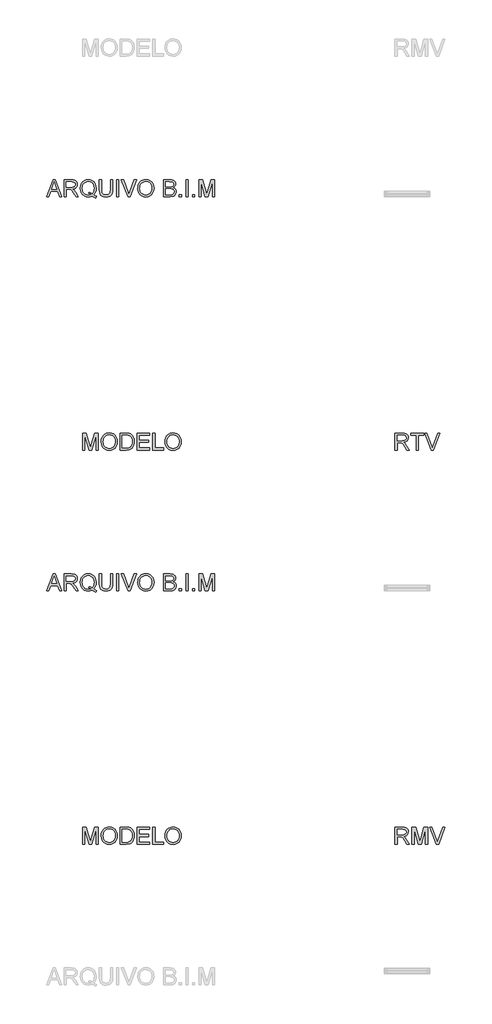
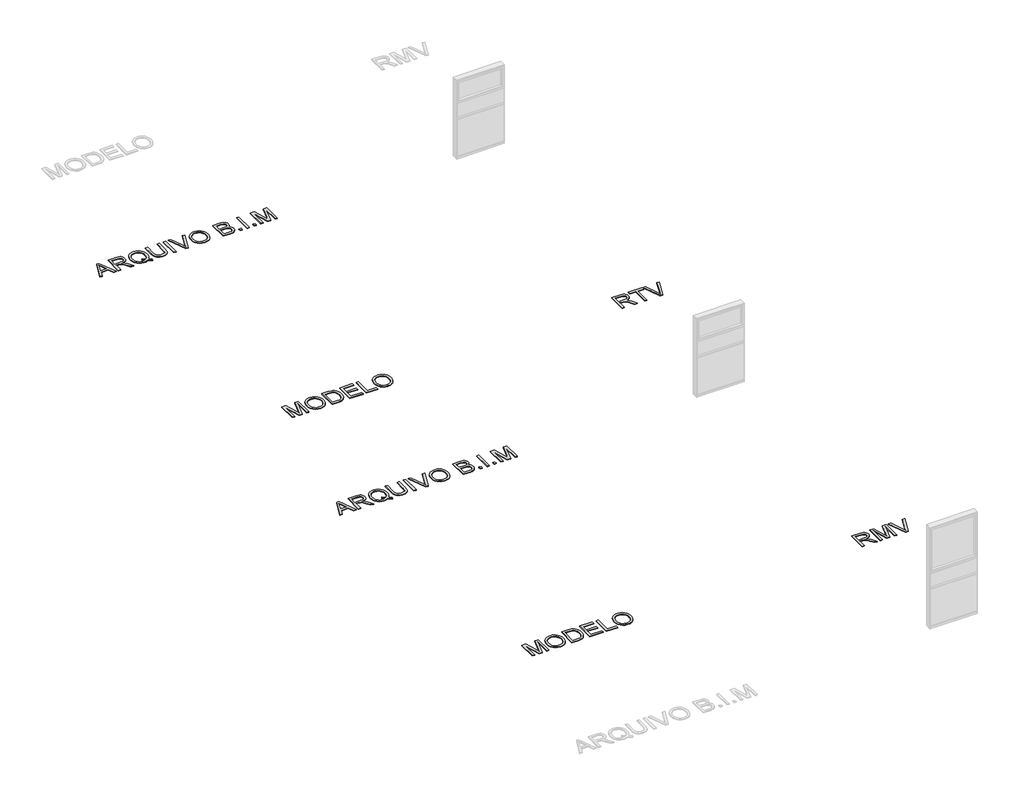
# One storey, part 5 of 15: 6 proxies.
"""IFC4 building model written with IfcOpenShell, lengths in millimetres."""

from ifc_helpers import new_model, si_unit, origin, origin_with_axes, place, context, project, spatial, polyline, outline, extrude, element, save

model = new_model("IFC4")

# Units and contexts
model_context = context("Model", 3, world=origin())
ifc_project = project(units=[si_unit("LENGTHUNIT", "METRE", prefix="MILLI")], contexts=[model_context])

# Site, building, storey
site = spatial("IfcSite", under=ifc_project)
building = spatial("IfcBuilding", under=site)
storey = spatial("IfcBuildingStorey", under=building, Name="Marelli - Linha REASONS - Planta Baixa", Elevation=0.0)

# Proxies
placement = place(None, origin())
element("IfcBuildingElementProxy", 1, Name="300mm Arial", ObjectType="300mm Arial", at=placement, inside=storey, context=model_context, shape_type="SweptSolid", body=[
    extrude(outline(polyline([(9390.580402, -126280.5663201), (9510.8778144, -125979.1973896), (9542.9571244, -125979.1973896), (9663.2545368, -126280.5663201), (9623.449705, -126280.5663201), (9588.9423738, -126186.3885293), (9464.8189886, -126186.3885293), (9430.3852339, -126280.5663201), (9390.580402, -126280.5663201)]), holes=[polyline([(9478.6513517, -126148.717413), (9575.1835872, -126148.717413), (9548.0338959, -126074.6259792), (9526.9174694, -126016.8685059), (9508.1554877, -126068.1512561), (9478.6513517, -126148.717413)])]), origin_with_axes(), (0.0, 0.0, 1.0), 10.0),
    extrude(outline(polyline([(9703.5008271, -126280.5663201), (9703.5008271, -125979.1973896), (9833.3631714, -125979.1973896), (9868.2659757, -125981.2299376), (9893.6590304, -125987.3275817), (9912.2186771, -125998.5847708), (9926.6212572, -126016.0959537), (9935.8642923, -126037.8101885), (9938.945304, -126061.6765329), (9933.8409413, -126091.3646099), (9918.5278533, -126115.9759154), (9906.9280741, -126126.0052983), (9892.5461874, -126134.0205273), (9855.4360911, -126144.0085235), (9876.8468232, -126160.1217548), (9907.3810288, -126198.8965171), (9957.6337094, -126280.5663201), (9913.855752, -126280.5663201), (9874.6395313, -126218.0999573), (9846.3126176, -126176.750021), (9826.4102017, -126157.2154871), (9808.4943485, -126150.0417882), (9786.642158, -126148.717413), (9741.1719434, -126148.717413), (9741.1719434, -126280.5663201), (9703.5008271, -126280.5663201)]), holes=[polyline([(9741.1719434, -126111.0462967), (9825.4904967, -126111.0462967), (9849.706329, -126109.7127245), (9868.4959019, -126105.7120078), (9882.6409647, -126098.7774322), (9892.9232664, -126088.6422832), (9899.1864574, -126076.3826157), (9901.2741877, -126063.0744845), (9897.2918651, -126044.6987789), (9885.3448973, -126029.8915286), (9864.7894908, -126020.1242616), (9834.9818522, -126016.8685059), (9741.1719434, -126016.8685059), (9741.1719434, -126111.0462967)])]), origin_with_axes(), (0.0, 0.0, 1.0), 10.0),
    extrude(outline(polyline([(10231.2643374, -126244.4403081), (10255.5997314, -126263.036743), (10277.9853508, -126275.8574305), (10267.8318077, -126303.4485802), (10236.7641732, -126289.0460001), (10205.8069033, -126268.205485), (10170.9500843, -126281.0077785), (10132.5983863, -126285.2752096), (10094.0627473, -126280.3547879), (10059.2427164, -126265.5935229), (10030.0788713, -126241.9203165), (10008.5117893, -126210.2640708), (9995.185264, -126172.3630282), (9990.7430889, -126129.9554312), (9995.176067, -126087.511046), (10008.4750011, -126049.0581805), (10029.9593096, -126016.9512794), (10058.9484108, -125993.5447874), (10093.639683, -125979.2525719), (10132.2305043, -125974.4885001), (10171.1248282, -125979.3629365), (10205.9908443, -125993.9862458), (10234.9339603, -126017.3835407), (10256.0595839, -126048.5799339), (10268.9722419, -126085.9199564), (10273.2764612, -126127.7481393), (10270.6644991, -126162.5313819), (10262.8286126, -126193.5990164), (10249.7136194, -126220.9142546), (10231.2643374, -126244.4403081)]), holes=[polyline([(10142.9726585, -126194.3347804), (10174.6472983, -126206.3093393), (10200.215097, -126222.9559996), (10215.6983305, -126205.4816049), (10226.7577829, -126184.1076609), (10233.3934544, -126158.8341679), (10235.6053449, -126129.6611256), (10232.478348, -126096.5057608), (10223.0973571, -126067.8201623), (10207.6922985, -126044.3308969), (10186.4930986, -126026.7645316), (10160.934497, -126015.8108452), (10132.4512335, -126012.1596164), (10110.966925, -126014.0059242), (10091.3956028, -126019.5448474), (10073.7372671, -126028.7763863), (10057.9919177, -126041.7005406), (10045.0516685, -126058.2897193), (10035.8086334, -126078.5163313), (10030.2628123, -126102.3803764), (10028.4142052, -126129.8818548), (10030.2421189, -126156.6659634), (10035.7258599, -126180.1437324), (10044.8654282, -126200.3151621), (10057.6608239, -126217.1802523), (10073.2981079, -126230.4906827), (10090.9633415, -126239.9981331), (10110.6565245, -126245.7026032), (10132.3776571, -126247.6040933), (10153.2917485, -126245.6727128), (10172.918253, -126239.8785714), (10153.6228423, -126229.853787), (10133.2605739, -126223.1767288), (10142.9726585, -126194.3347804)])]), origin_with_axes(), (0.0, 0.0, 1.0), 10.0),
    extrude(outline(polyline([(10527.5564963, -125979.1973896), (10565.2276126, -125979.1973896), (10565.2276126, -126153.0584205), (10562.6708327, -126193.7737604), (10555.0004931, -126225.1265034), (10540.6714894, -126249.3147446), (10518.1387172, -126268.5365788), (10487.3469942, -126281.0905519), (10448.2411381, -126285.2752096), (10409.9906077, -126281.6331779), (10379.4104168, -126270.7070826), (10356.4913685, -126252.8740029), (10341.2242657, -126228.5110178), (10332.6434182, -126195.8338995), (10329.7831357, -126153.0584205), (10329.7831357, -125979.1973896), (10367.454252, -125979.1973896), (10367.454252, -126151.7340454), (10369.3120561, -126185.588386), (10374.8854683, -126209.1604248), (10384.9838291, -126225.4851883), (10400.4164788, -126237.597703), (10420.5396239, -126245.1024957), (10444.709471, -126247.6040933), (10483.0243808, -126242.6560805), (10497.3671801, -126236.4710644), (10508.500209, -126227.812042), (10516.8373347, -126215.6351479), (10522.7924245, -126198.8965171), (10527.5564963, -126151.7340454), (10527.5564963, -125979.1973896)])), origin_with_axes(), (0.0, 0.0, 1.0), 10.0),
    extrude(outline(polyline([(10635.8609557, -126280.5663201), (10635.8609557, -125979.1973896), (10673.532072, -125979.1973896), (10673.532072, -126280.5663201), (10635.8609557, -126280.5663201)])), origin_with_axes(), (0.0, 0.0, 1.0), 10.0),
    extrude(outline(polyline([(10837.9017474, -126280.5663201), (10717.972217, -125979.1973896), (10758.2920837, -125979.1973896), (10838.563935, -126196.3213432), (10854.8243192, -126245.2496485), (10870.8639742, -126196.3213432), (10951.3565547, -125979.1973896), (10991.6764214, -125979.1973896), (10876.8236625, -126280.5663201), (10837.9017474, -126280.5663201)])), origin_with_axes(), (0.0, 0.0, 1.0), 10.0),
    extrude(outline(polyline([(11012.5721187, -126133.8549804), (11015.0829134, -126098.5061192), (11022.6152972, -126067.213157), (11035.1692703, -126039.9760937), (11052.7448326, -126016.7949295), (11074.288922, -125998.2858666), (11098.7484761, -125985.0651074), (11126.1234951, -125977.1326519), (11156.4139789, -125974.4885001), (11195.9428992, -125979.454907), (11231.3883295, -125994.3541278), (11260.8188891, -126018.1376988), (11282.3031976, -126049.7571563), (11295.4365848, -126087.68579), (11299.8143806, -126130.3968896), (11295.2066586, -126173.6782064), (11281.3834926, -126212.140269), (11259.1082378, -126243.8149088), (11229.1442493, -126266.733957), (11194.0023217, -126280.6398965), (11156.1932497, -126285.2752096), (11116.057324, -126280.1524528), (11080.4095587, -126264.7841825), (11051.0525754, -126240.5591531), (11029.7889961, -126208.8661192), (11016.8763381, -126172.3998164), (11012.5721187, -126133.8549804)]), holes=[polyline([(11050.2432351, -126134.2228624), (11052.126331, -126159.1974513), (11057.7756189, -126181.3669401), (11067.1910987, -126200.7313286), (11080.3727705, -126217.2906169), (11096.3963306, -126230.5527628), (11114.3374757, -126240.0257242), (11134.1962056, -126245.709501), (11155.9725205, -126247.6040933), (11178.1213158, -126245.6911069), (11198.2145706, -126239.9521478), (11216.2522846, -126230.3872159), (11232.2344581, -126216.9963113), (11245.3195608, -126200.0875351), (11254.6660627, -126179.9689885), (11260.2739639, -126156.6406715), (11262.1432643, -126130.102584), (11258.9426909, -126096.7540812), (11249.3409708, -126067.9305269), (11233.5864244, -126044.358488), (11211.9273719, -126026.7645316), (11185.7985532, -126015.8108452), (11156.6347081, -126012.1596164), (11135.6148506, -126013.9185522), (11116.1125063, -126019.1953595), (11098.1276752, -126027.9900385), (11081.6603574, -126040.302589), (11067.9153664, -126056.7262208), (11058.0975156, -126077.8541437), (11052.2068052, -126103.6863575), (11050.2432351, -126134.2228624)])]), origin_with_axes(), (0.0, 0.0, 1.0), 10.0),
    extrude(outline(polyline([(11469.334404, -126280.5663201), (11469.334404, -125979.1973896), (11584.3343156, -125979.1973896), (11615.9629702, -125981.4138786), (11640.6570491, -125988.0633457), (11659.5845778, -125999.3113377), (11673.9135815, -126015.3234015), (11682.9358874, -126034.1589597), (11685.9433227, -126053.8774346), (11683.414134, -126072.0232141), (11675.8265679, -126089.0837416), (11663.125442, -126104.0105535), (11645.2555741, -126115.7551862), (11666.6019268, -126126.9020107), (11682.3748674, -126143.8613707), (11692.1145432, -126165.5112261), (11695.3611018, -126190.7295368), (11693.1446128, -126211.7447958), (11686.4951457, -126231.2333445), (11676.5715289, -126247.8064284), (11664.5325906, -126260.0752929), (11649.7897196, -126268.9596431), (11631.7543048, -126275.3791839), (11583.4513989, -126280.5663201), (11469.334404, -126280.5663201)]), holes=[polyline([(11507.0055203, -126101.6285176), (11575.7994534, -126101.6285176), (11615.9721672, -126098.3911561), (11630.0344565, -126092.8085468), (11640.1420143, -126084.4484284), (11646.2396584, -126073.4395597), (11648.2722064, -126059.9106994), (11646.3776141, -126046.7773121), (11640.6938373, -126035.3361821), (11631.4783933, -126026.4058467), (11618.9887996, -126020.8048433), (11570.575529, -126016.8685059), (11507.0055203, -126016.8685059), (11507.0055203, -126101.6285176)]), polyline([(11507.0055203, -126242.8952038), (11584.2607393, -126242.8952038), (11612.2197709, -126241.4236758), (11635.8745832, -126233.2199073), (11651.5463562, -126216.4812765), (11656.1540782, -126204.6538704), (11657.6899855, -126191.0974188), (11655.8873637, -126175.3520694), (11650.4794984, -126161.814012), (11641.0341282, -126151.2282076), (11627.1189917, -126144.3396173), (11607.4097138, -126140.5596298), (11580.5819193, -126139.2996339), (11507.0055203, -126139.2996339), (11507.0055203, -126242.8952038)])]), origin_with_axes(), (0.0, 0.0, 1.0), 10.0),
    extrude(outline(polyline([(11751.8677763, -126280.5663201), (11751.8677763, -126242.8952038), (11789.5388926, -126242.8952038), (11789.5388926, -126280.5663201), (11751.8677763, -126280.5663201)])), origin_with_axes(), (0.0, 0.0, 1.0), 10.0),
    extrude(outline(polyline([(11869.5900147, -126280.5663201), (11869.5900147, -125979.1973896), (11907.261131, -125979.1973896), (11907.261131, -126280.5663201), (11869.5900147, -126280.5663201)])), origin_with_axes(), (0.0, 0.0, 1.0), 10.0),
    extrude(outline(polyline([(11987.3122532, -126280.5663201), (11987.3122532, -126242.8952038), (12024.9833695, -126242.8952038), (12024.9833695, -126280.5663201), (11987.3122532, -126280.5663201)])), origin_with_axes(), (0.0, 0.0, 1.0), 10.0),
    extrude(outline(polyline([(12100.3256021, -126280.5663201), (12100.3256021, -125979.1973896), (12165.1464096, -125979.1973896), (12226.803432, -126191.6124536), (12239.2378435, -126235.9790223), (12252.7023245, -126187.9336337), (12313.3292773, -125979.1973896), (12378.1500848, -125979.1973896), (12378.1500848, -126280.5663201), (12340.4789685, -126280.5663201), (12340.4789685, -126016.8685059), (12264.7688539, -126280.5663201), (12213.706833, -126280.5663201), (12137.9967184, -126016.8685059), (12137.9967184, -126280.5663201), (12100.3256021, -126280.5663201)])), origin_with_axes(), (0.0, 0.0, 1.0), 10.0),
])
element("IfcBuildingElementProxy", 2, Name="300mm Arial", ObjectType="300mm Arial", at=placement, inside=storey, context=model_context, shape_type="SweptSolid", body=[
    extrude(outline(polyline([(10033.1230948, -123780.5663201), (10033.1230948, -123479.1973896), (10097.9439023, -123479.1973896), (10159.6009247, -123691.6124536), (10172.0353362, -123735.9790223), (10185.4998172, -123687.9336337), (10246.12677, -123479.1973896), (10310.9475775, -123479.1973896), (10310.9475775, -123780.5663201), (10273.2764612, -123780.5663201), (10273.2764612, -123516.8685059), (10197.5663466, -123780.5663201), (10146.5043257, -123780.5663201), (10070.7942111, -123516.8685059), (10070.7942111, -123780.5663201), (10033.1230948, -123780.5663201)])), origin_with_axes(), (0.0, 0.0, 1.0), 10.0),
    extrude(outline(polyline([(10362.7453625, -123633.8549804), (10365.2561571, -123598.5061192), (10372.7885409, -123567.213157), (10385.342514, -123539.9760937), (10402.9180763, -123516.7949295), (10424.4621657, -123498.2858666), (10448.9217198, -123485.0651074), (10476.2967388, -123477.1326519), (10506.5872226, -123474.4885001), (10546.116143, -123479.454907), (10581.5615732, -123494.3541278), (10610.9921328, -123518.1376988), (10632.4764413, -123549.7571563), (10645.6098286, -123587.68579), (10649.9876243, -123630.3968896), (10645.3799023, -123673.6782064), (10631.5567363, -123712.140269), (10609.2814815, -123743.8149088), (10579.317493, -123766.733957), (10544.1755654, -123780.6398965), (10506.3664934, -123785.2752096), (10466.2305677, -123780.1524528), (10430.5828024, -123764.7841825), (10401.2258192, -123740.5591531), (10379.9622398, -123708.8661192), (10367.0495818, -123672.3998164), (10362.7453625, -123633.8549804)]), holes=[polyline([(10400.4164788, -123634.2228624), (10402.2995747, -123659.1974513), (10407.9488626, -123681.3669401), (10417.3643424, -123700.7313286), (10430.5460142, -123717.2906169), (10446.5695743, -123730.5527628), (10464.5107194, -123740.0257242), (10484.3694493, -123745.709501), (10506.1457642, -123747.6040933), (10528.2945596, -123745.6911069), (10548.3878143, -123739.9521478), (10566.4255284, -123730.3872159), (10582.4077018, -123716.9963113), (10595.4928045, -123700.0875351), (10604.8393064, -123679.9689885), (10610.4472076, -123656.6406715), (10612.316508, -123630.102584), (10609.1159346, -123596.7540812), (10599.5142146, -123567.9305269), (10583.7596681, -123544.358488), (10562.1006157, -123526.7645316), (10535.9717969, -123515.8108452), (10506.8079518, -123512.1596164), (10485.7880943, -123513.9185522), (10466.28575, -123519.1953595), (10448.300919, -123527.9900385), (10431.8336012, -123540.302589), (10418.0886101, -123556.7262208), (10408.2707594, -123577.8541437), (10402.3800489, -123603.6863575), (10400.4164788, -123634.2228624)])]), origin_with_axes(), (0.0, 0.0, 1.0), 10.0),
    extrude(outline(polyline([(10701.7854092, -123780.5663201), (10701.7854092, -123479.1973896), (10805.7488611, -123479.1973896), (10859.5332088, -123483.5383972), (10883.555903, -123491.9077126), (10903.826201, -123505.0962821), (10924.666716, -123528.0521186), (10939.5107545, -123556.5997614), (10948.3951047, -123590.1873876), (10951.3565547, -123628.2631741), (10949.3515979, -123660.6091985), (10943.3367273, -123689.0740679), (10934.1764656, -123713.3082943), (10922.7353355, -123732.9623899), (10909.5651601, -123748.477813), (10895.2177623, -123760.2960221), (10878.745846, -123769.0608107), (10859.202115, -123775.4159721), (10810.7520562, -123780.5663201), (10701.7854092, -123780.5663201)]), holes=[polyline([(10739.4565255, -123742.8952038), (10806.1167431, -123742.8952038), (10833.6894986, -123741.5340404), (10854.60359, -123737.4505502), (10870.3857276, -123730.8838566), (10882.5626217, -123722.0730828), (10895.6500236, -123705.7667134), (10905.48167, -123684.6594839), (10911.6344963, -123658.6594239), (10913.6854384, -123627.6745629), (10909.6663276, -123586.6189322), (10897.6089953, -123556.3054558), (10879.7943096, -123535.4833349), (10858.5031392, -123522.9017706), (10836.8348897, -123518.3768221), (10805.0866735, -123516.8685059), (10739.4565255, -123516.8685059), (10739.4565255, -123742.8952038)])]), origin_with_axes(), (0.0, 0.0, 1.0), 10.0),
    extrude(outline(polyline([(11003.1543397, -123780.5663201), (11003.1543397, -123479.1973896), (11219.7632584, -123479.1973896), (11219.7632584, -123516.8685059), (11040.825456, -123516.8685059), (11040.825456, -123606.3374072), (11210.3454794, -123606.3374072), (11210.3454794, -123644.0085235), (11040.825456, -123644.0085235), (11040.825456, -123742.8952038), (11224.472148, -123742.8952038), (11224.472148, -123780.5663201), (11003.1543397, -123780.5663201)])), origin_with_axes(), (0.0, 0.0, 1.0), 10.0),
    extrude(outline(polyline([(11280.9788224, -123780.5663201), (11280.9788224, -123479.1973896), (11318.6499387, -123479.1973896), (11318.6499387, -123742.8952038), (11469.334404, -123742.8952038), (11469.334404, -123780.5663201), (11280.9788224, -123780.5663201)])), origin_with_axes(), (0.0, 0.0, 1.0), 10.0),
    extrude(outline(polyline([(11497.5877412, -123633.8549804), (11500.0985358, -123598.5061192), (11507.6309197, -123567.213157), (11520.1848927, -123539.9760937), (11537.7604551, -123516.7949295), (11559.3045444, -123498.2858666), (11583.7640986, -123485.0651074), (11611.1391175, -123477.1326519), (11641.4296013, -123474.4885001), (11680.9585217, -123479.454907), (11716.4039519, -123494.3541278), (11745.8345115, -123518.1376988), (11767.3188201, -123549.7571563), (11780.4522073, -123587.68579), (11784.830003, -123630.3968896), (11780.222281, -123673.6782064), (11766.3991151, -123712.140269), (11744.1238603, -123743.8149088), (11714.1598717, -123766.733957), (11679.0179442, -123780.6398965), (11641.2088721, -123785.2752096), (11601.0729464, -123780.1524528), (11565.4251811, -123764.7841825), (11536.0681979, -123740.5591531), (11514.8046186, -123708.8661192), (11501.8919605, -123672.3998164), (11497.5877412, -123633.8549804)]), holes=[polyline([(11535.2588575, -123634.2228624), (11537.1419535, -123659.1974513), (11542.7912413, -123681.3669401), (11552.2067212, -123700.7313286), (11565.3883929, -123717.2906169), (11581.4119531, -123730.5527628), (11599.3530981, -123740.0257242), (11619.2118281, -123745.709501), (11640.9881429, -123747.6040933), (11663.1369383, -123745.6911069), (11683.230193, -123739.9521478), (11701.2679071, -123730.3872159), (11717.2500805, -123716.9963113), (11730.3351832, -123700.0875351), (11739.6816852, -123679.9689885), (11745.2895863, -123656.6406715), (11747.1588867, -123630.102584), (11743.9583134, -123596.7540812), (11734.3565933, -123567.9305269), (11718.6020468, -123544.358488), (11696.9429944, -123526.7645316), (11670.8141757, -123515.8108452), (11641.6503305, -123512.1596164), (11620.630473, -123513.9185522), (11601.1281287, -123519.1953595), (11583.1432977, -123527.9900385), (11566.6759799, -123540.302589), (11552.9309888, -123556.7262208), (11543.1131381, -123577.8541437), (11537.2224276, -123603.6863575), (11535.2588575, -123634.2228624)])]), origin_with_axes(), (0.0, 0.0, 1.0), 10.0),
])
element("IfcBuildingElementProxy", 3, Name="300mm Arial", ObjectType="300mm Arial", at=placement, inside=storey, context=model_context, shape_type="SweptSolid", body=[
    extrude(outline(polyline([(9390.580402, -119280.5663201), (9510.8778144, -118979.1973896), (9542.9571244, -118979.1973896), (9663.2545368, -119280.5663201), (9623.449705, -119280.5663201), (9588.9423738, -119186.3885293), (9464.8189886, -119186.3885293), (9430.3852339, -119280.5663201), (9390.580402, -119280.5663201)]), holes=[polyline([(9478.6513517, -119148.717413), (9575.1835872, -119148.717413), (9548.0338959, -119074.6259792), (9526.9174694, -119016.8685059), (9508.1554877, -119068.1512561), (9478.6513517, -119148.717413)])]), origin_with_axes(), (0.0, 0.0, 1.0), 10.0),
    extrude(outline(polyline([(9703.5008271, -119280.5663201), (9703.5008271, -118979.1973896), (9833.3631714, -118979.1973896), (9868.2659757, -118981.2299376), (9893.6590304, -118987.3275817), (9912.2186771, -118998.5847708), (9926.6212572, -119016.0959537), (9935.8642923, -119037.8101885), (9938.945304, -119061.6765329), (9933.8409413, -119091.3646099), (9918.5278533, -119115.9759154), (9906.9280741, -119126.0052983), (9892.5461874, -119134.0205273), (9855.4360911, -119144.0085235), (9876.8468232, -119160.1217548), (9907.3810288, -119198.8965171), (9957.6337094, -119280.5663201), (9913.855752, -119280.5663201), (9874.6395313, -119218.0999573), (9846.3126176, -119176.750021), (9826.4102017, -119157.2154871), (9808.4943485, -119150.0417882), (9786.642158, -119148.717413), (9741.1719434, -119148.717413), (9741.1719434, -119280.5663201), (9703.5008271, -119280.5663201)]), holes=[polyline([(9741.1719434, -119111.0462967), (9825.4904967, -119111.0462967), (9849.706329, -119109.7127245), (9868.4959019, -119105.7120078), (9882.6409647, -119098.7774322), (9892.9232664, -119088.6422832), (9899.1864574, -119076.3826157), (9901.2741877, -119063.0744845), (9897.2918651, -119044.6987789), (9885.3448973, -119029.8915286), (9864.7894908, -119020.1242616), (9834.9818522, -119016.8685059), (9741.1719434, -119016.8685059), (9741.1719434, -119111.0462967)])]), origin_with_axes(), (0.0, 0.0, 1.0), 10.0),
    extrude(outline(polyline([(10231.2643374, -119244.4403081), (10255.5997314, -119263.036743), (10277.9853508, -119275.8574305), (10267.8318077, -119303.4485802), (10236.7641732, -119289.0460001), (10205.8069033, -119268.205485), (10170.9500843, -119281.0077785), (10132.5983863, -119285.2752096), (10094.0627473, -119280.3547879), (10059.2427164, -119265.5935229), (10030.0788713, -119241.9203165), (10008.5117893, -119210.2640708), (9995.185264, -119172.3630282), (9990.7430889, -119129.9554312), (9995.176067, -119087.511046), (10008.4750011, -119049.0581805), (10029.9593096, -119016.9512794), (10058.9484108, -118993.5447874), (10093.639683, -118979.2525719), (10132.2305043, -118974.4885001), (10171.1248282, -118979.3629365), (10205.9908443, -118993.9862458), (10234.9339603, -119017.3835407), (10256.0595839, -119048.5799339), (10268.9722419, -119085.9199564), (10273.2764612, -119127.7481393), (10270.6644991, -119162.5313819), (10262.8286126, -119193.5990164), (10249.7136194, -119220.9142546), (10231.2643374, -119244.4403081)]), holes=[polyline([(10142.9726585, -119194.3347804), (10174.6472983, -119206.3093393), (10200.215097, -119222.9559996), (10215.6983305, -119205.4816049), (10226.7577829, -119184.1076609), (10233.3934544, -119158.8341679), (10235.6053449, -119129.6611256), (10232.478348, -119096.5057608), (10223.0973571, -119067.8201623), (10207.6922985, -119044.3308969), (10186.4930986, -119026.7645316), (10160.934497, -119015.8108452), (10132.4512335, -119012.1596164), (10110.966925, -119014.0059242), (10091.3956028, -119019.5448474), (10073.7372671, -119028.7763863), (10057.9919177, -119041.7005406), (10045.0516685, -119058.2897193), (10035.8086334, -119078.5163313), (10030.2628123, -119102.3803764), (10028.4142052, -119129.8818548), (10030.2421189, -119156.6659634), (10035.7258599, -119180.1437324), (10044.8654282, -119200.3151621), (10057.6608239, -119217.1802523), (10073.2981079, -119230.4906827), (10090.9633415, -119239.9981331), (10110.6565245, -119245.7026032), (10132.3776571, -119247.6040933), (10153.2917485, -119245.6727128), (10172.918253, -119239.8785714), (10153.6228423, -119229.853787), (10133.2605739, -119223.1767288), (10142.9726585, -119194.3347804)])]), origin_with_axes(), (0.0, 0.0, 1.0), 10.0),
    extrude(outline(polyline([(10527.5564963, -118979.1973896), (10565.2276126, -118979.1973896), (10565.2276126, -119153.0584205), (10562.6708327, -119193.7737604), (10555.0004931, -119225.1265034), (10540.6714894, -119249.3147446), (10518.1387172, -119268.5365788), (10487.3469942, -119281.0905519), (10448.2411381, -119285.2752096), (10409.9906077, -119281.6331779), (10379.4104168, -119270.7070826), (10356.4913685, -119252.8740029), (10341.2242657, -119228.5110178), (10332.6434182, -119195.8338995), (10329.7831357, -119153.0584205), (10329.7831357, -118979.1973896), (10367.454252, -118979.1973896), (10367.454252, -119151.7340454), (10369.3120561, -119185.588386), (10374.8854683, -119209.1604248), (10384.9838291, -119225.4851883), (10400.4164788, -119237.597703), (10420.5396239, -119245.1024957), (10444.709471, -119247.6040933), (10483.0243808, -119242.6560805), (10497.3671801, -119236.4710644), (10508.500209, -119227.812042), (10516.8373347, -119215.6351479), (10522.7924245, -119198.8965171), (10527.5564963, -119151.7340454), (10527.5564963, -118979.1973896)])), origin_with_axes(), (0.0, 0.0, 1.0), 10.0),
    extrude(outline(polyline([(10635.8609557, -119280.5663201), (10635.8609557, -118979.1973896), (10673.532072, -118979.1973896), (10673.532072, -119280.5663201), (10635.8609557, -119280.5663201)])), origin_with_axes(), (0.0, 0.0, 1.0), 10.0),
    extrude(outline(polyline([(10837.9017474, -119280.5663201), (10717.972217, -118979.1973896), (10758.2920837, -118979.1973896), (10838.563935, -119196.3213432), (10854.8243192, -119245.2496485), (10870.8639742, -119196.3213432), (10951.3565547, -118979.1973896), (10991.6764214, -118979.1973896), (10876.8236625, -119280.5663201), (10837.9017474, -119280.5663201)])), origin_with_axes(), (0.0, 0.0, 1.0), 10.0),
    extrude(outline(polyline([(11012.5721187, -119133.8549804), (11015.0829134, -119098.5061192), (11022.6152972, -119067.213157), (11035.1692703, -119039.9760937), (11052.7448326, -119016.7949295), (11074.288922, -118998.2858666), (11098.7484761, -118985.0651074), (11126.1234951, -118977.1326519), (11156.4139789, -118974.4885001), (11195.9428992, -118979.454907), (11231.3883295, -118994.3541278), (11260.8188891, -119018.1376988), (11282.3031976, -119049.7571563), (11295.4365848, -119087.68579), (11299.8143806, -119130.3968896), (11295.2066586, -119173.6782064), (11281.3834926, -119212.140269), (11259.1082378, -119243.8149087), (11229.1442493, -119266.733957), (11194.0023217, -119280.6398965), (11156.1932497, -119285.2752096), (11116.057324, -119280.1524528), (11080.4095587, -119264.7841825), (11051.0525754, -119240.5591531), (11029.7889961, -119208.8661192), (11016.8763381, -119172.3998164), (11012.5721187, -119133.8549804)]), holes=[polyline([(11050.2432351, -119134.2228624), (11052.126331, -119159.1974513), (11057.7756189, -119181.3669401), (11067.1910987, -119200.7313286), (11080.3727705, -119217.2906169), (11096.3963306, -119230.5527628), (11114.3374757, -119240.0257242), (11134.1962056, -119245.709501), (11155.9725205, -119247.6040933), (11178.1213158, -119245.6911069), (11198.2145706, -119239.9521478), (11216.2522846, -119230.3872159), (11232.2344581, -119216.9963113), (11245.3195608, -119200.0875351), (11254.6660627, -119179.9689885), (11260.2739639, -119156.6406715), (11262.1432643, -119130.102584), (11258.9426909, -119096.7540812), (11249.3409708, -119067.9305269), (11233.5864244, -119044.358488), (11211.9273719, -119026.7645316), (11185.7985532, -119015.8108452), (11156.6347081, -119012.1596164), (11135.6148506, -119013.9185522), (11116.1125063, -119019.1953595), (11098.1276752, -119027.9900385), (11081.6603574, -119040.302589), (11067.9153664, -119056.7262208), (11058.0975156, -119077.8541437), (11052.2068052, -119103.6863575), (11050.2432351, -119134.2228624)])]), origin_with_axes(), (0.0, 0.0, 1.0), 10.0),
    extrude(outline(polyline([(11469.334404, -119280.5663201), (11469.334404, -118979.1973896), (11584.3343156, -118979.1973896), (11615.9629702, -118981.4138786), (11640.6570491, -118988.0633457), (11659.5845778, -118999.3113377), (11673.9135815, -119015.3234015), (11682.9358874, -119034.1589597), (11685.9433227, -119053.8774346), (11683.414134, -119072.0232141), (11675.8265679, -119089.0837416), (11663.125442, -119104.0105535), (11645.2555741, -119115.7551862), (11666.6019268, -119126.9020107), (11682.3748674, -119143.8613707), (11692.1145432, -119165.5112261), (11695.3611018, -119190.7295368), (11693.1446128, -119211.7447958), (11686.4951457, -119231.2333445), (11676.5715289, -119247.8064284), (11664.5325906, -119260.0752929), (11649.7897196, -119268.9596431), (11631.7543048, -119275.3791839), (11583.4513989, -119280.5663201), (11469.334404, -119280.5663201)]), holes=[polyline([(11507.0055203, -119101.6285176), (11575.7994534, -119101.6285176), (11615.9721672, -119098.3911561), (11630.0344565, -119092.8085468), (11640.1420143, -119084.4484284), (11646.2396584, -119073.4395597), (11648.2722064, -119059.9106994), (11646.3776141, -119046.7773121), (11640.6938373, -119035.3361821), (11631.4783933, -119026.4058467), (11618.9887996, -119020.8048433), (11570.575529, -119016.8685059), (11507.0055203, -119016.8685059), (11507.0055203, -119101.6285176)]), polyline([(11507.0055203, -119242.8952038), (11584.2607393, -119242.8952038), (11612.2197709, -119241.4236758), (11635.8745832, -119233.2199073), (11651.5463562, -119216.4812765), (11656.1540782, -119204.6538704), (11657.6899855, -119191.0974188), (11655.8873637, -119175.3520694), (11650.4794984, -119161.814012), (11641.0341282, -119151.2282076), (11627.1189917, -119144.3396173), (11607.4097138, -119140.5596298), (11580.5819193, -119139.2996339), (11507.0055203, -119139.2996339), (11507.0055203, -119242.8952038)])]), origin_with_axes(), (0.0, 0.0, 1.0), 10.0),
    extrude(outline(polyline([(11751.8677763, -119280.5663201), (11751.8677763, -119242.8952038), (11789.5388926, -119242.8952038), (11789.5388926, -119280.5663201), (11751.8677763, -119280.5663201)])), origin_with_axes(), (0.0, 0.0, 1.0), 10.0),
    extrude(outline(polyline([(11869.5900147, -119280.5663201), (11869.5900147, -118979.1973896), (11907.261131, -118979.1973896), (11907.261131, -119280.5663201), (11869.5900147, -119280.5663201)])), origin_with_axes(), (0.0, 0.0, 1.0), 10.0),
    extrude(outline(polyline([(11987.3122532, -119280.5663201), (11987.3122532, -119242.8952038), (12024.9833695, -119242.8952038), (12024.9833695, -119280.5663201), (11987.3122532, -119280.5663201)])), origin_with_axes(), (0.0, 0.0, 1.0), 10.0),
    extrude(outline(polyline([(12100.3256021, -119280.5663201), (12100.3256021, -118979.1973896), (12165.1464096, -118979.1973896), (12226.803432, -119191.6124536), (12239.2378435, -119235.9790223), (12252.7023245, -119187.9336337), (12313.3292773, -118979.1973896), (12378.1500848, -118979.1973896), (12378.1500848, -119280.5663201), (12340.4789685, -119280.5663201), (12340.4789685, -119016.8685059), (12264.7688539, -119280.5663201), (12213.706833, -119280.5663201), (12137.9967184, -119016.8685059), (12137.9967184, -119280.5663201), (12100.3256021, -119280.5663201)])), origin_with_axes(), (0.0, 0.0, 1.0), 10.0),
])
element("IfcBuildingElementProxy", 4, Name="300mm Arial", ObjectType="300mm Arial", at=placement, inside=storey, context=model_context, shape_type="SweptSolid", body=[
    extrude(outline(polyline([(10033.1230948, -130780.5663201), (10033.1230948, -130479.1973896), (10097.9439023, -130479.1973896), (10159.6009247, -130691.6124536), (10172.0353362, -130735.9790223), (10185.4998172, -130687.9336337), (10246.12677, -130479.1973896), (10310.9475775, -130479.1973896), (10310.9475775, -130780.5663201), (10273.2764612, -130780.5663201), (10273.2764612, -130516.8685059), (10197.5663466, -130780.5663201), (10146.5043257, -130780.5663201), (10070.7942111, -130516.8685059), (10070.7942111, -130780.5663201), (10033.1230948, -130780.5663201)])), origin_with_axes(), (0.0, 0.0, 1.0), 10.0),
    extrude(outline(polyline([(10362.7453625, -130633.8549804), (10365.2561571, -130598.5061192), (10372.7885409, -130567.213157), (10385.342514, -130539.9760937), (10402.9180763, -130516.7949295), (10424.4621657, -130498.2858666), (10448.9217198, -130485.0651074), (10476.2967388, -130477.1326519), (10506.5872226, -130474.4885001), (10546.116143, -130479.454907), (10581.5615732, -130494.3541278), (10610.9921328, -130518.1376988), (10632.4764413, -130549.7571563), (10645.6098286, -130587.68579), (10649.9876243, -130630.3968896), (10645.3799023, -130673.6782064), (10631.5567363, -130712.140269), (10609.2814815, -130743.8149088), (10579.317493, -130766.733957), (10544.1755654, -130780.6398965), (10506.3664934, -130785.2752096), (10466.2305677, -130780.1524528), (10430.5828024, -130764.7841825), (10401.2258192, -130740.5591531), (10379.9622398, -130708.8661192), (10367.0495818, -130672.3998164), (10362.7453625, -130633.8549804)]), holes=[polyline([(10400.4164788, -130634.2228624), (10402.2995747, -130659.1974513), (10407.9488626, -130681.3669401), (10417.3643424, -130700.7313286), (10430.5460142, -130717.2906169), (10446.5695743, -130730.5527628), (10464.5107194, -130740.0257242), (10484.3694493, -130745.709501), (10506.1457642, -130747.6040933), (10528.2945596, -130745.6911069), (10548.3878143, -130739.9521478), (10566.4255284, -130730.3872159), (10582.4077018, -130716.9963113), (10595.4928045, -130700.0875351), (10604.8393064, -130679.9689885), (10610.4472076, -130656.6406715), (10612.316508, -130630.102584), (10609.1159346, -130596.7540812), (10599.5142146, -130567.9305269), (10583.7596681, -130544.358488), (10562.1006157, -130526.7645316), (10535.9717969, -130515.8108452), (10506.8079518, -130512.1596164), (10485.7880943, -130513.9185522), (10466.28575, -130519.1953595), (10448.300919, -130527.9900385), (10431.8336012, -130540.302589), (10418.0886101, -130556.7262208), (10408.2707594, -130577.8541437), (10402.3800489, -130603.6863575), (10400.4164788, -130634.2228624)])]), origin_with_axes(), (0.0, 0.0, 1.0), 10.0),
    extrude(outline(polyline([(10701.7854092, -130780.5663201), (10701.7854092, -130479.1973896), (10805.7488611, -130479.1973896), (10859.5332088, -130483.5383972), (10883.555903, -130491.9077126), (10903.826201, -130505.0962821), (10924.666716, -130528.0521186), (10939.5107545, -130556.5997614), (10948.3951047, -130590.1873876), (10951.3565547, -130628.2631741), (10949.3515979, -130660.6091985), (10943.3367273, -130689.0740679), (10934.1764656, -130713.3082943), (10922.7353355, -130732.9623899), (10909.5651601, -130748.477813), (10895.2177623, -130760.2960221), (10878.745846, -130769.0608107), (10859.202115, -130775.4159721), (10810.7520562, -130780.5663201), (10701.7854092, -130780.5663201)]), holes=[polyline([(10739.4565255, -130742.8952038), (10806.1167431, -130742.8952038), (10833.6894986, -130741.5340404), (10854.60359, -130737.4505502), (10870.3857276, -130730.8838566), (10882.5626217, -130722.0730828), (10895.6500236, -130705.7667134), (10905.48167, -130684.6594839), (10911.6344963, -130658.6594239), (10913.6854384, -130627.6745629), (10909.6663276, -130586.6189322), (10897.6089953, -130556.3054558), (10879.7943096, -130535.4833349), (10858.5031392, -130522.9017706), (10836.8348897, -130518.3768221), (10805.0866735, -130516.8685059), (10739.4565255, -130516.8685059), (10739.4565255, -130742.8952038)])]), origin_with_axes(), (0.0, 0.0, 1.0), 10.0),
    extrude(outline(polyline([(11003.1543397, -130780.5663201), (11003.1543397, -130479.1973896), (11219.7632584, -130479.1973896), (11219.7632584, -130516.8685059), (11040.825456, -130516.8685059), (11040.825456, -130606.3374072), (11210.3454794, -130606.3374072), (11210.3454794, -130644.0085235), (11040.825456, -130644.0085235), (11040.825456, -130742.8952038), (11224.472148, -130742.8952038), (11224.472148, -130780.5663201), (11003.1543397, -130780.5663201)])), origin_with_axes(), (0.0, 0.0, 1.0), 10.0),
    extrude(outline(polyline([(11280.9788224, -130780.5663201), (11280.9788224, -130479.1973896), (11318.6499387, -130479.1973896), (11318.6499387, -130742.8952038), (11469.334404, -130742.8952038), (11469.334404, -130780.5663201), (11280.9788224, -130780.5663201)])), origin_with_axes(), (0.0, 0.0, 1.0), 10.0),
    extrude(outline(polyline([(11497.5877412, -130633.8549804), (11500.0985358, -130598.5061192), (11507.6309197, -130567.213157), (11520.1848927, -130539.9760937), (11537.7604551, -130516.7949295), (11559.3045444, -130498.2858666), (11583.7640986, -130485.0651074), (11611.1391175, -130477.1326519), (11641.4296013, -130474.4885001), (11680.9585217, -130479.454907), (11716.4039519, -130494.3541278), (11745.8345115, -130518.1376988), (11767.3188201, -130549.7571563), (11780.4522073, -130587.68579), (11784.830003, -130630.3968896), (11780.222281, -130673.6782064), (11766.3991151, -130712.140269), (11744.1238603, -130743.8149088), (11714.1598717, -130766.733957), (11679.0179442, -130780.6398965), (11641.2088721, -130785.2752096), (11601.0729464, -130780.1524528), (11565.4251811, -130764.7841825), (11536.0681979, -130740.5591531), (11514.8046186, -130708.8661192), (11501.8919605, -130672.3998164), (11497.5877412, -130633.8549804)]), holes=[polyline([(11535.2588575, -130634.2228624), (11537.1419535, -130659.1974513), (11542.7912413, -130681.3669401), (11552.2067212, -130700.7313286), (11565.3883929, -130717.2906169), (11581.4119531, -130730.5527628), (11599.3530981, -130740.0257242), (11619.2118281, -130745.709501), (11640.9881429, -130747.6040933), (11663.1369383, -130745.6911069), (11683.230193, -130739.9521478), (11701.2679071, -130730.3872159), (11717.2500805, -130716.9963113), (11730.3351832, -130700.0875351), (11739.6816852, -130679.9689885), (11745.2895863, -130656.6406715), (11747.1588867, -130630.102584), (11743.9583134, -130596.7540812), (11734.3565933, -130567.9305269), (11718.6020468, -130544.358488), (11696.9429944, -130526.7645316), (11670.8141757, -130515.8108452), (11641.6503305, -130512.1596164), (11620.630473, -130513.9185522), (11601.1281287, -130519.1953595), (11583.1432977, -130527.9900385), (11566.6759799, -130540.302589), (11552.9309888, -130556.7262208), (11543.1131381, -130577.8541437), (11537.2224276, -130603.6863575), (11535.2588575, -130634.2228624)])]), origin_with_axes(), (0.0, 0.0, 1.0), 10.0),
])
element("IfcBuildingElementProxy", 5, Name="300mm Arial", ObjectType="300mm Arial", at=placement, inside=storey, context=model_context, shape_type="SweptSolid", body=[
    extrude(outline(polyline([(15588.7720603, -123780.5663201), (15588.7720603, -123479.1973896), (15718.6344046, -123479.1973896), (15753.5372089, -123481.2299376), (15778.9302636, -123487.3275817), (15797.4899103, -123498.5847708), (15811.8924904, -123516.0959537), (15821.1355255, -123537.8101885), (15824.2165372, -123561.6765329), (15819.1121745, -123591.3646099), (15803.7990865, -123615.9759154), (15792.1993073, -123626.0052983), (15777.8174206, -123634.0205273), (15740.7073243, -123644.0085235), (15762.1180564, -123660.1217548), (15792.652262, -123698.8965171), (15842.9049426, -123780.5663201), (15799.1269851, -123780.5663201), (15759.9107645, -123718.0999573), (15731.5838508, -123676.750021), (15711.6814349, -123657.2154871), (15693.7655817, -123650.0417882), (15671.9133912, -123648.717413), (15626.4431766, -123648.717413), (15626.4431766, -123780.5663201), (15588.7720603, -123780.5663201)]), holes=[polyline([(15626.4431766, -123611.0462967), (15710.7617299, -123611.0462967), (15734.9775622, -123609.7127245), (15753.7671351, -123605.7120078), (15767.9121979, -123598.7774322), (15778.1944996, -123588.6422832), (15784.4576906, -123576.3826157), (15786.5454209, -123563.0744845), (15782.5630983, -123544.6987789), (15770.6161305, -123529.8915286), (15750.060724, -123520.1242616), (15720.2530854, -123516.8685059), (15626.4431766, -123516.8685059), (15626.4431766, -123611.0462967)])]), origin_with_axes(), (0.0, 0.0, 1.0), 10.0),
    extrude(outline(polyline([(15965.4832234, -123780.5663201), (15965.4832234, -123516.8685059), (15866.5965431, -123516.8685059), (15866.5965431, -123479.1973896), (16102.04102, -123479.1973896), (16102.04102, -123516.8685059), (16003.1543397, -123516.8685059), (16003.1543397, -123780.5663201), (15965.4832234, -123780.5663201)])), origin_with_axes(), (0.0, 0.0, 1.0), 10.0),
    extrude(outline(polyline([(16233.4484687, -123780.5663201), (16113.5189382, -123479.1973896), (16153.8388049, -123479.1973896), (16234.1106562, -123696.3213432), (16250.3710404, -123745.2496485), (16266.4106954, -123696.3213432), (16346.903276, -123479.1973896), (16387.2231426, -123479.1973896), (16272.3703837, -123780.5663201), (16233.4484687, -123780.5663201)])), origin_with_axes(), (0.0, 0.0, 1.0), 10.0),
])
element("IfcBuildingElementProxy", 6, Name="300mm Arial", ObjectType="300mm Arial", at=placement, inside=storey, context=model_context, shape_type="SweptSolid", body=[
    extrude(outline(polyline([(15588.7720603, -130780.5663201), (15588.7720603, -130479.1973896), (15718.6344046, -130479.1973896), (15753.5372089, -130481.2299376), (15778.9302636, -130487.3275817), (15797.4899103, -130498.5847708), (15811.8924904, -130516.0959537), (15821.1355255, -130537.8101885), (15824.2165372, -130561.6765329), (15819.1121745, -130591.3646099), (15803.7990865, -130615.9759154), (15792.1993073, -130626.0052983), (15777.8174206, -130634.0205273), (15740.7073243, -130644.0085235), (15762.1180564, -130660.1217548), (15792.652262, -130698.8965171), (15842.9049426, -130780.5663201), (15799.1269851, -130780.5663201), (15759.9107645, -130718.0999573), (15731.5838508, -130676.750021), (15711.6814349, -130657.2154871), (15693.7655817, -130650.0417882), (15671.9133912, -130648.717413), (15626.4431766, -130648.717413), (15626.4431766, -130780.5663201), (15588.7720603, -130780.5663201)]), holes=[polyline([(15626.4431766, -130611.0462967), (15710.7617299, -130611.0462967), (15734.9775622, -130609.7127245), (15753.7671351, -130605.7120078), (15767.9121979, -130598.7774322), (15778.1944996, -130588.6422832), (15784.4576906, -130576.3826157), (15786.5454209, -130563.0744845), (15782.5630983, -130544.6987789), (15770.6161305, -130529.8915286), (15750.060724, -130520.1242616), (15720.2530854, -130516.8685059), (15626.4431766, -130516.8685059), (15626.4431766, -130611.0462967)])]), origin_with_axes(), (0.0, 0.0, 1.0), 10.0),
    extrude(outline(polyline([(15890.1409908, -130780.5663201), (15890.1409908, -130479.1973896), (15954.9617983, -130479.1973896), (16016.6188207, -130691.6124536), (16029.0532321, -130735.9790223), (16042.5177132, -130687.9336337), (16103.144666, -130479.1973896), (16167.9654735, -130479.1973896), (16167.9654735, -130780.5663201), (16130.2943572, -130780.5663201), (16130.2943572, -130516.8685059), (16054.5842426, -130780.5663201), (16003.5222217, -130780.5663201), (15927.8121071, -130516.8685059), (15927.8121071, -130780.5663201), (15890.1409908, -130780.5663201)])), origin_with_axes(), (0.0, 0.0, 1.0), 10.0),
    extrude(outline(polyline([(16322.9173699, -130780.5663201), (16202.9878394, -130479.1973896), (16243.3077061, -130479.1973896), (16323.5795575, -130696.3213432), (16339.8399417, -130745.2496485), (16355.8795966, -130696.3213432), (16436.3721772, -130479.1973896), (16476.6920439, -130479.1973896), (16361.839285, -130780.5663201), (16322.9173699, -130780.5663201)])), origin_with_axes(), (0.0, 0.0, 1.0), 10.0),
])

save(model, "model.ifc")
